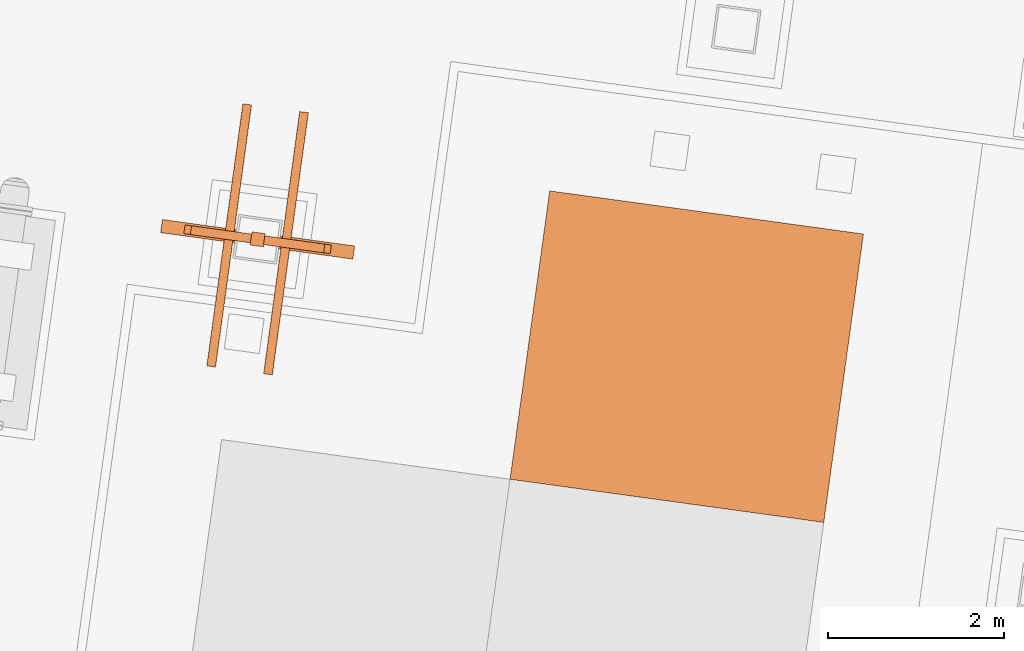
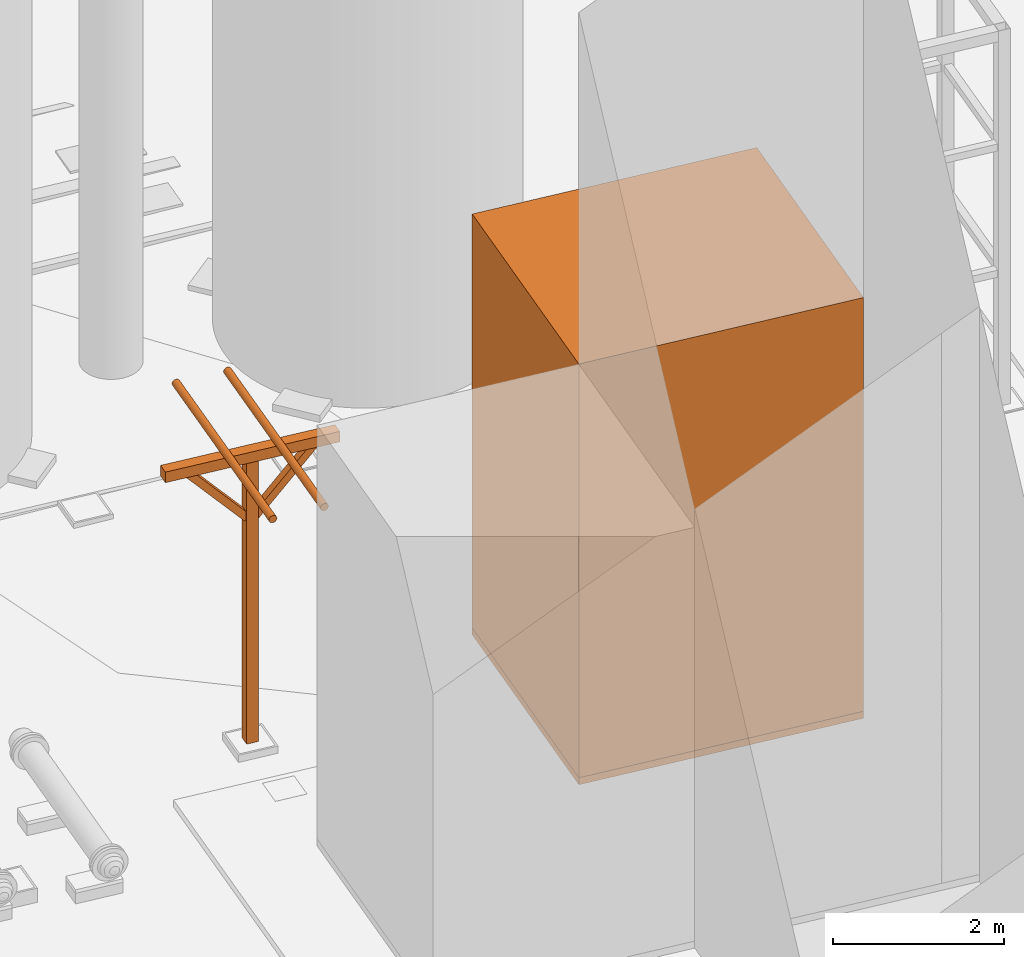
# Not in any storey, part 65 of 75: 8 proxies.
"""IFC4 model written with IfcOpenShell, lengths in metres."""

from ifc_helpers import new_model, si_unit, direction, origin, origin_with_axes, place, context, subcontext, project, spatial, triangles, element, save


model = new_model("IFC4")

# Units and contexts
model_context = context("Model", 3, precision=1e-05, world=origin_with_axes(), true_north=direction((0.0, 1.0)))
body_context = subcontext(model_context, "Body", "Model", "MODEL_VIEW")
ifc_project = project(units=[si_unit("AREAUNIT", "SQUARE_METRE"), si_unit("VOLUMEUNIT", "CUBIC_METRE"), si_unit("LENGTHUNIT", "METRE")], contexts=[model_context])

# Site
site_placement = place(None, origin_with_axes())
site = spatial("IfcSite", under=ifc_project, at=site_placement, Name="Parcela industrial Jinhong")

# Proxies
proxy_1_placement = place(site_placement, origin_with_axes())
element("IfcBuildingElementProxy", 1, at=proxy_1_placement, inside=site, Name="Caja fría del expansor norte · solo ámbito en planta; altura desconocida", ObjectType="Marcador de equipo en planta", PredefinedType="USERDEFINED", context=body_context, shape_type="Tessellation", body=[
    triangles([(54.128395, 46.319867, 1.2000000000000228), (58.134468, 49.100134, 1.2000000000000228), (57.684995, 45.830887, 1.2000000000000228), (54.577868, 49.589114, 1.2000000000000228), (54.128395, 46.319867, 1.3000000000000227), (57.684995, 45.830887, 1.3000000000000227), (58.134468, 49.100134, 1.3000000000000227), (54.577868, 49.589114, 1.3000000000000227)], [[1, 2, 3], [1, 4, 2], [7, 5, 6], [7, 8, 5], [1, 3, 6], [5, 1, 6], [2, 7, 3], [3, 7, 6], [2, 4, 8], [7, 2, 8], [1, 5, 4], [5, 8, 4]], closed=True),
])
proxy_2_placement = place(None, origin())
element("IfcBuildingElementProxy", 2, at=proxy_2_placement, inside=site, Name="Ámbito del expansor norte · volumen provisional", context=body_context, shape_type="Tessellation", body=[
    triangles([(54.128395, 46.319867, 1.2), (58.134468, 49.100134, 1.2), (57.684995, 45.830887, 1.2), (54.577868, 49.589114, 1.2), (58.134468, 49.100134, 7.2), (54.128395, 46.319867, 7.2), (57.684995, 45.830887, 7.2), (54.577868, 49.589114, 7.2)], [[1, 2, 3], [1, 4, 2], [5, 6, 7], [6, 5, 8], [1, 3, 7], [6, 1, 7], [2, 5, 3], [5, 7, 3], [2, 4, 8], [5, 2, 8], [1, 6, 4], [4, 6, 8]], closed=True),
])
proxy_3_placement = place(None, origin())
element("IfcBuildingElementProxy", 3, at=proxy_3_placement, inside=site, Name="Soporte C33 · montante provisional", context=body_context, shape_type="Tessellation", body=[
    triangles([(51.182130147, 48.975912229, 1.2), (51.182130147, 48.975912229, 5.2), (51.202560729, 49.124514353, 1.2), (51.202560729, 49.124514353, 5.2), (51.330732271, 48.955481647, 1.2), (51.330732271, 48.955481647, 5.2), (51.351162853, 49.104083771, 1.2), (51.351162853, 49.104083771, 5.2)], [[2, 4, 1], [5, 2, 1], [1, 4, 3], [3, 5, 1], [2, 8, 4], [6, 2, 5], [6, 8, 2], [4, 8, 3], [7, 5, 3], [3, 8, 7], [7, 6, 5], [8, 6, 7]], closed=True),
])
proxy_4_placement = place(None, origin())
element("IfcBuildingElementProxy", 4, at=proxy_4_placement, inside=site, Name="Soporte C33 · travesaño provisional", context=body_context, shape_type="Tessellation", body=[
    triangles([(50.166682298, 49.115521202, 5.2), (50.166682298, 49.115521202, 5.35), (50.187112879, 49.264123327, 5.2), (50.187112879, 49.264123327, 5.35), (52.346180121, 48.815872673, 5.2), (52.346180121, 48.815872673, 5.35), (52.366610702, 48.964474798, 5.2), (52.366610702, 48.964474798, 5.35)], [[2, 4, 1], [5, 2, 1], [1, 4, 3], [3, 5, 1], [2, 8, 4], [6, 2, 5], [6, 8, 2], [4, 8, 3], [7, 5, 3], [3, 8, 7], [7, 6, 5], [8, 6, 7]], closed=True),
])
proxy_5_placement = place(None, origin())
element("IfcBuildingElementProxy", 5, at=proxy_5_placement, inside=site, Name="Soporte C33 · cartela izquierda provisional", context=body_context, shape_type="Tessellation", body=[
    triangles([(51.247054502, 48.992221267, 4.433522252), (50.50404388, 49.094374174, 5.263522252), (51.173550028, 49.002327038, 4.366477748), (50.430539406, 49.104479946, 5.196477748), (51.26067489, 49.091289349, 4.433522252), (50.517664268, 49.193442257, 5.263522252), (51.187170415, 49.101395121, 4.366477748), (50.444159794, 49.203548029, 5.196477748)], [[2, 4, 1], [5, 2, 1], [1, 4, 3], [3, 5, 1], [2, 8, 4], [6, 2, 5], [6, 8, 2], [4, 8, 3], [7, 5, 3], [3, 8, 7], [7, 6, 5], [8, 6, 7]], closed=True),
])
proxy_6_placement = place(None, origin())
element("IfcBuildingElementProxy", 6, at=proxy_6_placement, inside=site, Name="Soporte C33 · cartela derecha provisional", context=body_context, shape_type="Tessellation", body=[
    triangles([(51.346122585, 48.978600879, 4.366477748), (52.089133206, 48.876447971, 5.196477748), (51.27261811, 48.988706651, 4.433522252), (52.015628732, 48.886553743, 5.263522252), (51.359742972, 49.077668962, 4.366477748), (52.102753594, 48.975516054, 5.196477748), (51.286238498, 49.087774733, 4.433522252), (52.02924912, 48.985621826, 5.263522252)], [[2, 4, 1], [5, 2, 1], [1, 4, 3], [3, 5, 1], [2, 8, 4], [6, 2, 5], [6, 8, 2], [4, 8, 3], [7, 5, 3], [3, 8, 7], [7, 6, 5], [8, 6, 7]], closed=True),
])
proxy_7_placement = place(None, origin())
element("IfcBuildingElementProxy", 7, at=proxy_7_placement, inside=site, Name="C33 · tramo de tubería 01 provisional sin conexión", context=body_context, shape_type="Tessellation", body=[
    triangles([(50.740369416, 47.598243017, 5.4), (50.789903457, 47.591432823, 5.4), (51.198515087, 50.563475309, 5.4), (51.148981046, 50.570285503, 5.4), (50.788215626, 47.591664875, 5.387059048), (51.196827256, 50.563707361, 5.387059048), (50.783267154, 47.592345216, 5.375), (51.191878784, 50.564387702, 5.375), (50.775395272, 47.593427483, 5.364644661), (51.184006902, 50.565469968, 5.364644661), (50.765136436, 47.59483792, 5.35669873), (51.173748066, 50.566880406, 5.35669873), (50.753189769, 47.596480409, 5.351703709), (51.161801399, 50.568522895, 5.351703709), (50.740369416, 47.598243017, 5.35), (51.148981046, 50.570285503, 5.35), (50.727549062, 47.600005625, 5.351703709), (51.136160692, 50.572048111, 5.351703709), (50.715602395, 47.601648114, 5.35669873), (51.124214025, 50.5736906, 5.35669873), (50.705343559, 47.603058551, 5.364644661), (51.113955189, 50.575101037, 5.364644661), (50.697471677, 47.604140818, 5.375), (51.106083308, 50.576183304, 5.375), (50.692523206, 47.604821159, 5.387059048), (51.101134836, 50.576863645, 5.387059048), (50.690835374, 47.605053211, 5.4), (51.099447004, 50.577095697, 5.4), (50.692523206, 47.604821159, 5.412940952), (51.101134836, 50.576863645, 5.412940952), (50.697471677, 47.604140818, 5.425), (51.106083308, 50.576183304, 5.425), (50.705343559, 47.603058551, 5.435355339), (51.113955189, 50.575101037, 5.435355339), (50.715602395, 47.601648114, 5.44330127), (51.124214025, 50.5736906, 5.44330127), (50.727549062, 47.600005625, 5.448296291), (51.136160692, 50.572048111, 5.448296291), (50.740369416, 47.598243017, 5.45), (51.148981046, 50.570285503, 5.45), (50.753189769, 47.596480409, 5.448296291), (51.161801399, 50.568522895, 5.448296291), (50.765136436, 47.59483792, 5.44330127), (51.173748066, 50.566880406, 5.44330127), (50.775395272, 47.593427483, 5.435355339), (51.184006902, 50.565469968, 5.435355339), (50.783267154, 47.592345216, 5.425), (51.191878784, 50.564387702, 5.425), (50.788215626, 47.591664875, 5.412940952), (51.196827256, 50.563707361, 5.412940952)], [[2, 1, 5], [2, 5, 3], [3, 5, 6], [3, 6, 4], [5, 1, 7], [5, 7, 6], [6, 7, 8], [6, 8, 4], [7, 1, 9], [7, 9, 8], [8, 9, 10], [8, 10, 4], [9, 1, 11], [9, 11, 10], [10, 11, 12], [10, 12, 4], [11, 1, 13], [11, 13, 12], [12, 13, 14], [12, 14, 4], [13, 1, 15], [13, 15, 14], [14, 15, 16], [14, 16, 4], [15, 1, 17], [15, 17, 16], [16, 17, 18], [16, 18, 4], [17, 1, 19], [17, 19, 18], [18, 19, 20], [18, 20, 4], [19, 1, 21], [19, 21, 20], [20, 21, 22], [20, 22, 4], [21, 1, 23], [21, 23, 22], [22, 23, 24], [22, 24, 4], [23, 1, 25], [23, 25, 24], [24, 25, 26], [24, 26, 4], [25, 1, 27], [25, 27, 26], [26, 27, 28], [26, 28, 4], [27, 1, 29], [27, 29, 28], [28, 29, 30], [28, 30, 4], [29, 1, 31], [29, 31, 30], [30, 31, 32], [30, 32, 4], [31, 1, 33], [31, 33, 32], [32, 33, 34], [32, 34, 4], [33, 1, 35], [33, 35, 34], [34, 35, 36], [34, 36, 4], [35, 1, 37], [35, 37, 36], [36, 37, 38], [36, 38, 4], [37, 1, 39], [37, 39, 38], [38, 39, 40], [38, 40, 4], [39, 1, 41], [39, 41, 40], [40, 41, 42], [40, 42, 4], [41, 1, 43], [41, 43, 42], [42, 43, 44], [42, 44, 4], [43, 1, 45], [43, 45, 44], [44, 45, 46], [44, 46, 4], [45, 1, 47], [45, 47, 46], [46, 47, 48], [46, 48, 4], [47, 1, 49], [47, 49, 48], [48, 49, 50], [48, 50, 4], [49, 1, 2], [49, 2, 50], [50, 2, 3], [50, 3, 4]], closed=True),
])
proxy_8_placement = place(None, origin())
element("IfcBuildingElementProxy", 8, at=proxy_8_placement, inside=site, Name="C33 · tramo de tubería 02 provisional sin conexión", context=body_context, shape_type="Tessellation", body=[
    triangles([(51.384311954, 47.509710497, 5.4), (51.433845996, 47.502900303, 5.4), (51.842457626, 50.474942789, 5.4), (51.792923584, 50.481752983, 5.4), (51.432158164, 47.503132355, 5.387059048), (51.840769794, 50.475174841, 5.387059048), (51.427209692, 47.503812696, 5.375), (51.835821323, 50.475855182, 5.375), (51.419337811, 47.504894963, 5.364644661), (51.827949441, 50.476937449, 5.364644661), (51.409078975, 47.5063054, 5.35669873), (51.817690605, 50.478347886, 5.35669873), (51.397132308, 47.507947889, 5.351703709), (51.805743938, 50.479990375, 5.351703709), (51.384311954, 47.509710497, 5.35), (51.792923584, 50.481752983, 5.35), (51.371491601, 47.511473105, 5.351703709), (51.780103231, 50.483515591, 5.351703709), (51.359544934, 47.513115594, 5.35669873), (51.768156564, 50.48515808, 5.35669873), (51.349286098, 47.514526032, 5.364644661), (51.757897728, 50.486568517, 5.364644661), (51.341414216, 47.515608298, 5.375), (51.750025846, 50.487650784, 5.375), (51.336465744, 47.516288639, 5.387059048), (51.745077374, 50.488331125, 5.387059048), (51.334777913, 47.516520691, 5.4), (51.743389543, 50.488563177, 5.4), (51.336465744, 47.516288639, 5.412940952), (51.745077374, 50.488331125, 5.412940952), (51.341414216, 47.515608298, 5.425), (51.750025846, 50.487650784, 5.425), (51.349286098, 47.514526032, 5.435355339), (51.757897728, 50.486568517, 5.435355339), (51.359544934, 47.513115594, 5.44330127), (51.768156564, 50.48515808, 5.44330127), (51.371491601, 47.511473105, 5.448296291), (51.780103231, 50.483515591, 5.448296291), (51.384311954, 47.509710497, 5.45), (51.792923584, 50.481752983, 5.45), (51.397132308, 47.507947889, 5.448296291), (51.805743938, 50.479990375, 5.448296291), (51.409078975, 47.5063054, 5.44330127), (51.817690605, 50.478347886, 5.44330127), (51.419337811, 47.504894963, 5.435355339), (51.827949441, 50.476937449, 5.435355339), (51.427209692, 47.503812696, 5.425), (51.835821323, 50.475855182, 5.425), (51.432158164, 47.503132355, 5.412940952), (51.840769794, 50.475174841, 5.412940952)], [[2, 1, 5], [2, 5, 3], [3, 5, 6], [3, 6, 4], [5, 1, 7], [5, 7, 6], [6, 7, 8], [6, 8, 4], [7, 1, 9], [7, 9, 8], [8, 9, 10], [8, 10, 4], [9, 1, 11], [9, 11, 10], [10, 11, 12], [10, 12, 4], [11, 1, 13], [11, 13, 12], [12, 13, 14], [12, 14, 4], [13, 1, 15], [13, 15, 14], [14, 15, 16], [14, 16, 4], [15, 1, 17], [15, 17, 16], [16, 17, 18], [16, 18, 4], [17, 1, 19], [17, 19, 18], [18, 19, 20], [18, 20, 4], [19, 1, 21], [19, 21, 20], [20, 21, 22], [20, 22, 4], [21, 1, 23], [21, 23, 22], [22, 23, 24], [22, 24, 4], [23, 1, 25], [23, 25, 24], [24, 25, 26], [24, 26, 4], [25, 1, 27], [25, 27, 26], [26, 27, 28], [26, 28, 4], [27, 1, 29], [27, 29, 28], [28, 29, 30], [28, 30, 4], [29, 1, 31], [29, 31, 30], [30, 31, 32], [30, 32, 4], [31, 1, 33], [31, 33, 32], [32, 33, 34], [32, 34, 4], [33, 1, 35], [33, 35, 34], [34, 35, 36], [34, 36, 4], [35, 1, 37], [35, 37, 36], [36, 37, 38], [36, 38, 4], [37, 1, 39], [37, 39, 38], [38, 39, 40], [38, 40, 4], [39, 1, 41], [39, 41, 40], [40, 41, 42], [40, 42, 4], [41, 1, 43], [41, 43, 42], [42, 43, 44], [42, 44, 4], [43, 1, 45], [43, 45, 44], [44, 45, 46], [44, 46, 4], [45, 1, 47], [45, 47, 46], [46, 47, 48], [46, 48, 4], [47, 1, 49], [47, 49, 48], [48, 49, 50], [48, 50, 4], [49, 1, 2], [49, 2, 50], [50, 2, 3], [50, 3, 4]], closed=True),
])

save(model, "model.ifc")
